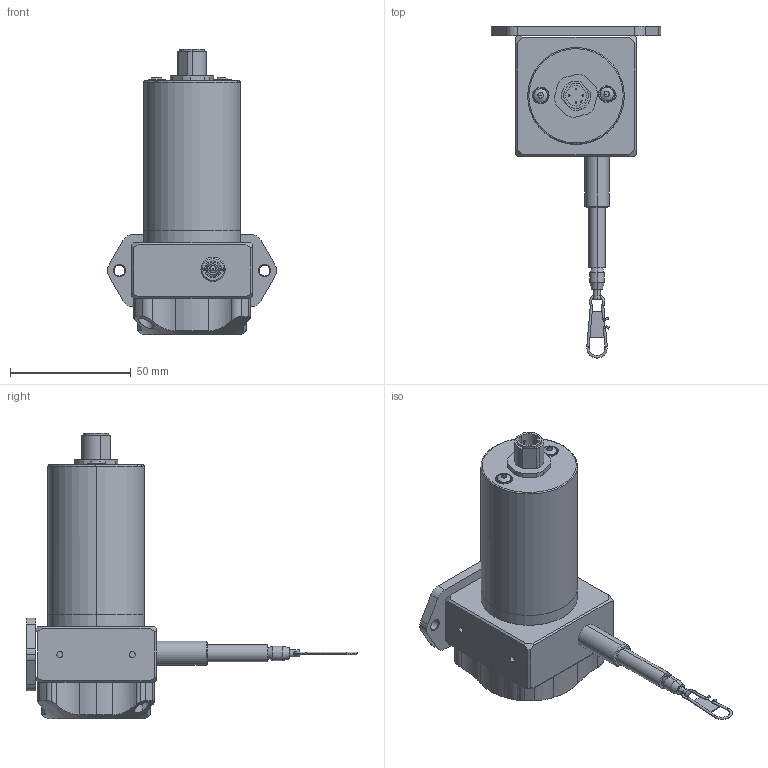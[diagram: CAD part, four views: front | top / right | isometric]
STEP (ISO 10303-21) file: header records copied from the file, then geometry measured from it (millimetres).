
FILE_DESCRIPTION (( 'STEP AP214' ), '1' );
FILE_NAME ('D8.3A1.0050.A223.0000.STEP', '2010-11-24T06:59:30', ( 'admin' ), ( 'Fritz Kübler GmbH' ), 'SwSTEP 2.0', 'SolidWorks 2009', '' );
FILE_SCHEMA (( 'AUTOMOTIVE_DESIGN' ));
Length unit declared in the file: millimetre
Products named in the file (1): D8.3A1.0050.A223.0000
Bounding box: 70 x 137.32 x 118 mm (x, y, z)
Surface area: 29881.6 mm2 (no closed solid volume)
Topology: 0 solids, 20 shells, 263 faces, 764 edges, 506 vertices
Faces by surface type: cylinder 106, plane 97, cone 30, torus 21, bspline 6, sphere 3
Entity records: 14405 total; most frequent: CARTESIAN_POINT 4793, DIRECTION 1379, ORIENTED_EDGE 1350, EDGE_CURVE 750, AXIS2_PLACEMENT_3D 517, VERTEX_POINT 504, VECTOR 345, LINE 345
